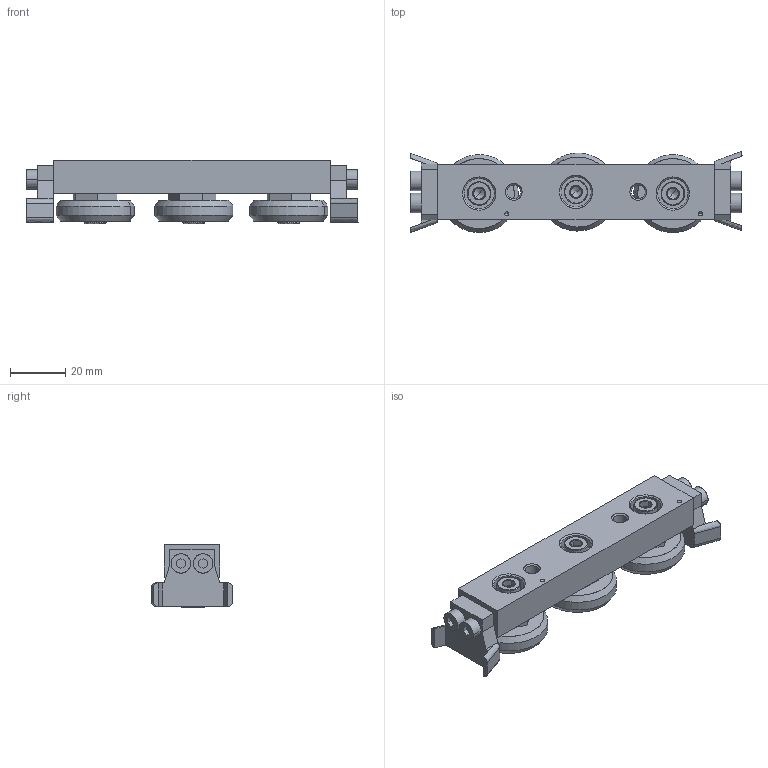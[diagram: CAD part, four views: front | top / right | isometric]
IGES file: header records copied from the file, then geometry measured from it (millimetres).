
Start section: SolidWorks IGES file using analytic representation for surfaces
Global section: file name: C:\Users\liam_\OneDrive\Documents\WORK\Work for WixRoyd\Job Files\J-00018 - L1918-L1963 LCompact Rail\L1935_v2\L1935.CSW35_v2\L1935.CSW35_v2_20190522_IGES\L1935.CSW35-100-2RSU.igs; native system: SolidWorks 2017; preprocessor: SolidWorks 2017; author: liam_; date: 190528.222624; units: millimetre
Bounding box: 120 x 29.4 x 22.85 mm (x, y, z)
Surface area: 18708 mm2 (no closed solid volume)
Topology: 0 solids, 0 shells, 342 faces, 4003 edges, 3985 vertices
Faces by surface type: bspline 173, revolution 169
